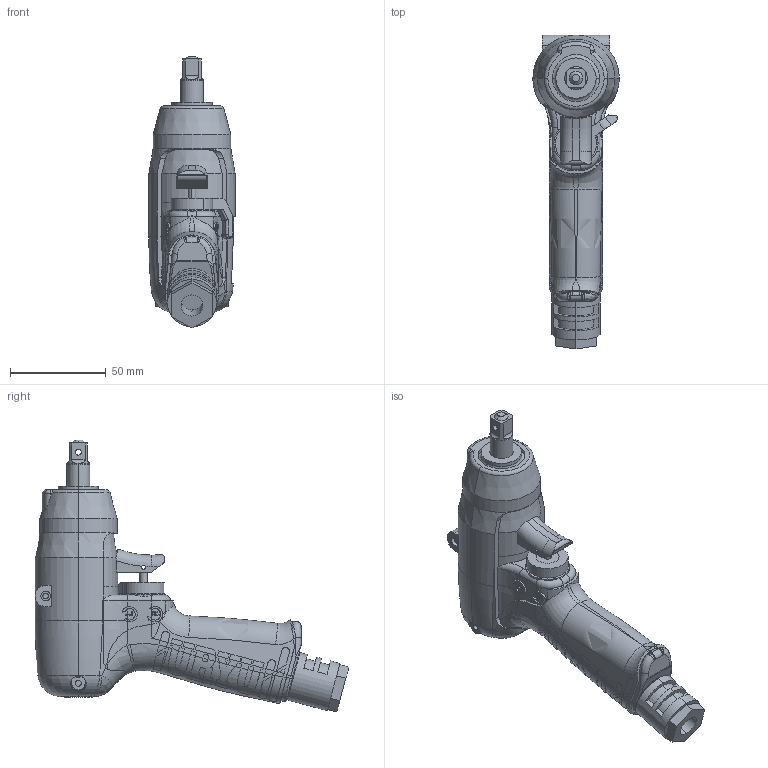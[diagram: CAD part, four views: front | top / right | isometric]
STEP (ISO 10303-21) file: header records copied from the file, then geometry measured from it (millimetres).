
FILE_DESCRIPTION (( 'STEP AP203' ), '1' );
FILE_NAME ('UL40.step', '2006-01-30T05:46:00', ( '山田　善嗣' ), ( 'TECH' ), 'SwSTEP 2.0', 'SolidWorks 2004073', '' );
FILE_SCHEMA (( 'CONFIG_CONTROL_DESIGN' ));
Length unit declared in the file: millimetre
Products named in the file (8): 1434390_UL40_蹬怮椔; UL40; 1478422_UL40_蹬怮椔; 1438400_UL40_蹬怮椔; 4802128_UL40_蹬怮椔; 1430250_UL40_蹬怮椔; 1434540_UL40_蹬怮椔; 1471072_UL40_蹬怮椔
Assembly tree (7 placements, depth 2):
  UL40
    1438400_UL40_蹬怮椔
    1434390_UL40_蹬怮椔
    1430250_UL40_蹬怮椔
    4802128_UL40_蹬怮椔
    1471072_UL40_蹬怮椔
    1478422_UL40_蹬怮椔
    1434540_UL40_蹬怮椔
Bounding box: 45 x 163.47 x 141.72 mm (x, y, z)
Volume: 252266.5 mm3; surface area: 77845 mm2
Topology: 7 solids, 7 shells, 1269 faces, 3513 edges, 2280 vertices
Faces by surface type: plane 765, cylinder 252, bspline 167, torus 64, cone 15, sphere 6
Entity records: 104629 total; most frequent: CARTESIAN_POINT 74426, ORIENTED_EDGE 7018, DIRECTION 4824, EDGE_CURVE 3509, VERTEX_POINT 2280, AXIS2_PLACEMENT_3D 1655, LINE 1514, VECTOR 1514
